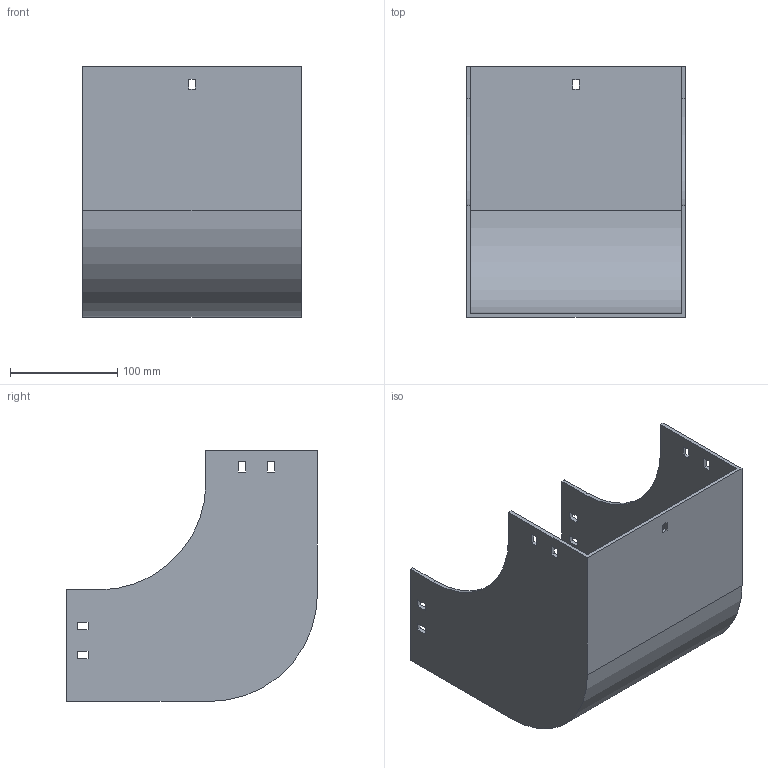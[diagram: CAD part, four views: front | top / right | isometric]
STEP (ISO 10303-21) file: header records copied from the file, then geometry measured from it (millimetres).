
FILE_DESCRIPTION (( 'STEP AP214' ), '1' );
FILE_NAME ('30F1D200.step', '2025-02-21T13:01:06', ( '' ), ( '' ), 'SwSTEP 2.0', 'SolidWorks 2023', '' );
FILE_SCHEMA (( 'AUTOMOTIVE_DESIGN' ));
Length unit declared in the file: millimetre
Products named in the file (1): 30F1D200
Bounding box: 204 x 234 x 234 mm (x, y, z)
Volume: 553819.5 mm3; surface area: 322011.1 mm2
Topology: 1 solids, 1 shells, 58 faces, 168 edges, 112 vertices
Faces by surface type: plane 54, cylinder 4
Entity records: 1943 total; most frequent: CARTESIAN_POINT 339, ORIENTED_EDGE 336, DIRECTION 294, EDGE_CURVE 168, LINE 160, VECTOR 160, VERTEX_POINT 112, EDGE_LOOP 78
